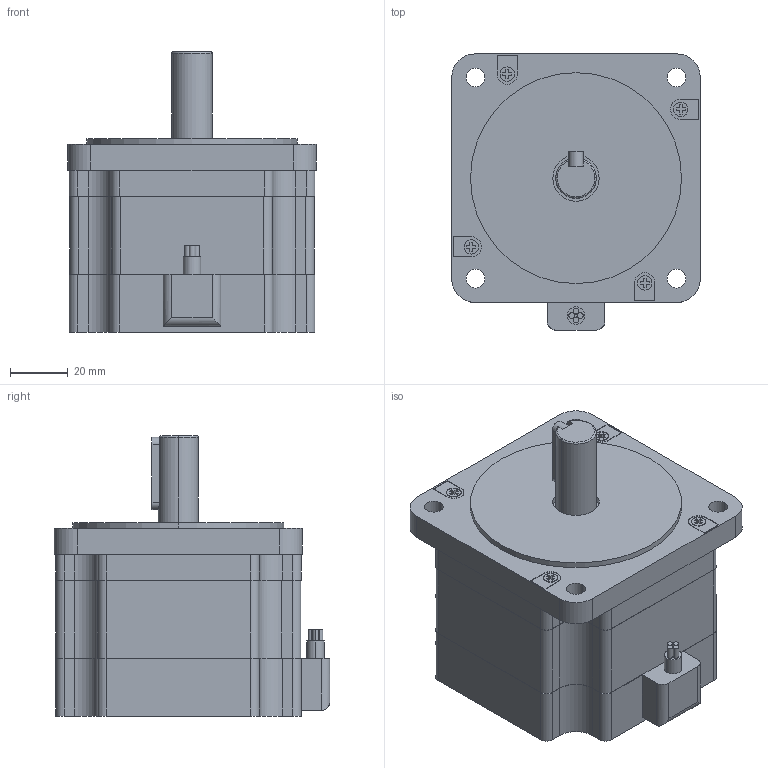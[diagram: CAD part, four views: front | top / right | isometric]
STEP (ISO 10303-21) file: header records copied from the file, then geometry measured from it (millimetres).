
FILE_DESCRIPTION (( 'STEP AP203' ), '1' );
FILE_NAME ('STC-86D40-0465.STEP', '2019-10-25T07:08:29', ( 'China' ), ( 'Home' ), 'SwSTEP 2.0', 'SolidWorks 2016', '' );
FILE_SCHEMA (( 'CONFIG_CONTROL_DESIGN' ));
Length unit declared in the file: millimetre
Products named in the file (1): STC-86D40-0465
Bounding box: 86 x 95.5 x 97 mm (x, y, z)
Volume: 440135.5 mm3; surface area: 39630.9 mm2
Topology: 2 solids, 2 shells, 227 faces, 593 edges, 394 vertices
Faces by surface type: plane 137, cylinder 87, bspline 3
Entity records: 7159 total; most frequent: CARTESIAN_POINT 1332, DIRECTION 1205, ORIENTED_EDGE 1186, EDGE_CURVE 593, LINE 413, VECTOR 413, AXIS2_PLACEMENT_3D 396, VERTEX_POINT 394
